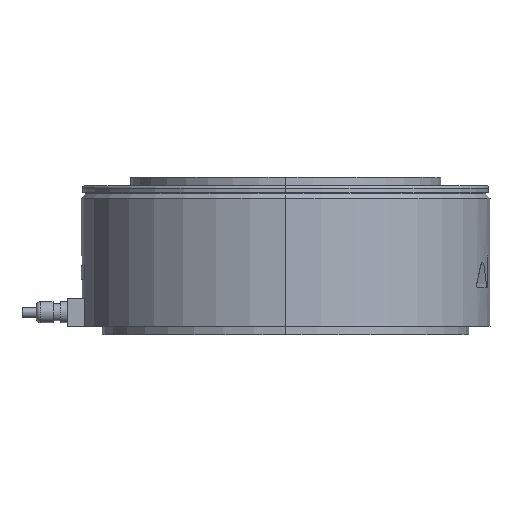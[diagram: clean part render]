
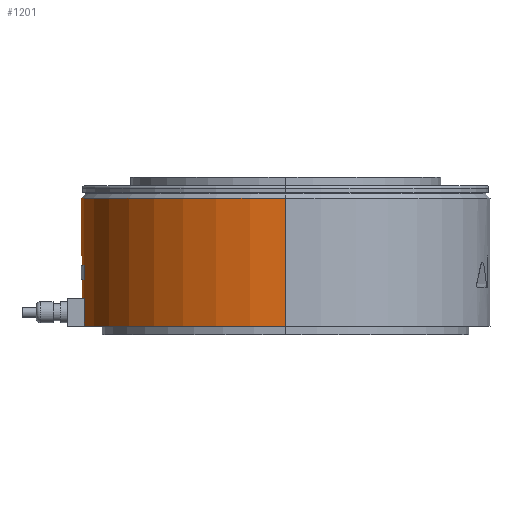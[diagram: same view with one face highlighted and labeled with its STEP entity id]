
A CAD part, left-side view. The second image highlights one B-rep face of the part: STEP entity #1201.
In plain terms, the highlighted cylindrical face has radius 145 mm (diameter 290 mm), a partial arc.
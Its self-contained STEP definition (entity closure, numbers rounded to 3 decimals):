
#20 = ORIENTED_EDGE ( 'NONE', *, *, #6651, .F. ) ;
#171 = CARTESIAN_POINT ( 'NONE',  ( -25., 142.829, 26. ) ) ;
#240 = CARTESIAN_POINT ( 'NONE',  ( 25., 142.829, 49.5 ) ) ;
#864 = ORIENTED_EDGE ( 'NONE', *, *, #6696, .F. ) ;
#1100 = ORIENTED_EDGE ( 'NONE', *, *, #6644, .F. ) ;
#1118 = ORIENTED_EDGE ( 'NONE', *, *, #6650, .F. ) ;
#1122 = ORIENTED_EDGE ( 'NONE', *, *, #6643, .T. ) ;
#1201 = ADVANCED_FACE ( 'NONE', ( #1850, #1858, #1860 ), #1854, .T. ) ;
#1373 = ORIENTED_EDGE ( 'NONE', *, *, #6642, .T. ) ;
#1377 = ORIENTED_EDGE ( 'NONE', *, *, #6665, .T. ) ;
#1378 = ORIENTED_EDGE ( 'NONE', *, *, #6637, .F. ) ;
#1850 = FACE_BOUND ( 'NONE', #3584, .T. ) ;
#1854 = CYLINDRICAL_SURFACE ( 'NONE', #2878, 145. ) ;
#1858 = FACE_BOUND ( 'NONE', #3506, .T. ) ;
#1860 = FACE_OUTER_BOUND ( 'NONE', #3510, .T. ) ;
#2605 = VECTOR ( 'NONE', #5945, 1000. ) ;
#2608 = CIRCLE ( 'NONE', #2720, 145. ) ;
#2610 = LINE ( 'NONE', #5944, #2605 ) ;
#2612 = LINE ( 'NONE', #5938, #2613 ) ;
#2613 = VECTOR ( 'NONE', #5939, 1000. ) ;
#2614 = CIRCLE ( 'NONE', #2723, 145. ) ;
#2615 = LINE ( 'NONE', #4117, #2625 ) ;
#2616 = CIRCLE ( 'NONE', #2728, 145. ) ;
#2621 = LINE ( 'NONE', #4119, #2622 ) ;
#2622 = VECTOR ( 'NONE', #4120, 1000. ) ;
#2623 = LINE ( 'NONE', #4121, #2624 ) ;
#2624 = VECTOR ( 'NONE', #4122, 1000. ) ;
#2625 = VECTOR ( 'NONE', #4124, 1000. ) ;
#2627 = CIRCLE ( 'NONE', #2726, 145. ) ;
#2643 = CIRCLE ( 'NONE', #2739, 145. ) ;
#2690 = CIRCLE ( 'NONE', #2754, 145. ) ;
#2693 = LINE ( 'NONE', #4293, #2694 ) ;
#2694 = VECTOR ( 'NONE', #4295, 1000. ) ;
#2720 = AXIS2_PLACEMENT_3D ( 'NONE', #5928, #5929, #5930 ) ;
#2723 = AXIS2_PLACEMENT_3D ( 'NONE', #5940, #5942, #5943 ) ;
#2726 = AXIS2_PLACEMENT_3D ( 'NONE', #4123, #4129, #4130 ) ;
#2728 = AXIS2_PLACEMENT_3D ( 'NONE', #5937, #4061, #4062 ) ;
#2739 = AXIS2_PLACEMENT_3D ( 'NONE', #4152, #4161, #4162 ) ;
#2754 = AXIS2_PLACEMENT_3D ( 'NONE', #4250, #4273, #4275 ) ;
#2878 = AXIS2_PLACEMENT_3D ( 'NONE', #4984, #5004, #5029 ) ;
#3506 = EDGE_LOOP ( 'NONE', ( #6123, #864, #1118, #1100 ) ) ;
#3510 = EDGE_LOOP ( 'NONE', ( #1377, #6130, #6110, #20 ) ) ;
#3584 = EDGE_LOOP ( 'NONE', ( #1373, #3860, #1378, #1122 ) ) ;
#3626 = VERTEX_POINT ( 'NONE', #171 ) ;
#3695 = VERTEX_POINT ( 'NONE', #240 ) ;
#3734 = VERTEX_POINT ( 'NONE', #6153 ) ;
#3735 = VERTEX_POINT ( 'NONE', #6154 ) ;
#3745 = VERTEX_POINT ( 'NONE', #6164 ) ;
#3860 = ORIENTED_EDGE ( 'NONE', *, *, #6641, .T. ) ;
#4061 = DIRECTION ( 'NONE',  ( 0., 0., -1. ) ) ;
#4062 = DIRECTION ( 'NONE',  ( 1., 0., 0. ) ) ;
#4117 = CARTESIAN_POINT ( 'NONE',  ( 145., 0., 0. ) ) ;
#4119 = CARTESIAN_POINT ( 'NONE',  ( 25., 142.829, 0. ) ) ;
#4120 = DIRECTION ( 'NONE',  ( 0., 0., -1. ) ) ;
#4121 = CARTESIAN_POINT ( 'NONE',  ( -145., 0., 0. ) ) ;
#4122 = DIRECTION ( 'NONE',  ( 0., 0., -1. ) ) ;
#4123 = CARTESIAN_POINT ( 'NONE',  ( 0., 0., 6. ) ) ;
#4124 = DIRECTION ( 'NONE',  ( 0., 0., -1. ) ) ;
#4129 = DIRECTION ( 'NONE',  ( 0., 0., -1. ) ) ;
#4130 = DIRECTION ( 'NONE',  ( -1., 0., 0. ) ) ;
#4152 = CARTESIAN_POINT ( 'NONE',  ( 0., 0., 97. ) ) ;
#4161 = DIRECTION ( 'NONE',  ( 0., 0., -1. ) ) ;
#4162 = DIRECTION ( 'NONE',  ( -1., 0., 0. ) ) ;
#4250 = CARTESIAN_POINT ( 'NONE',  ( 0., 0., 39. ) ) ;
#4273 = DIRECTION ( 'NONE',  ( 0., 0., 1. ) ) ;
#4275 = DIRECTION ( 'NONE',  ( -1., 0., 0. ) ) ;
#4291 = VERTEX_POINT ( 'NONE', #6242 ) ;
#4293 = CARTESIAN_POINT ( 'NONE',  ( -25., 142.829, 0. ) ) ;
#4295 = DIRECTION ( 'NONE',  ( 0., 0., 1. ) ) ;
#4296 = VERTEX_POINT ( 'NONE', #6244 ) ;
#4475 = VERTEX_POINT ( 'NONE', #6358 ) ;
#4477 = VERTEX_POINT ( 'NONE', #6360 ) ;
#4484 = VERTEX_POINT ( 'NONE', #6368 ) ;
#4485 = VERTEX_POINT ( 'NONE', #6367 ) ;
#4487 = VERTEX_POINT ( 'NONE', #6378 ) ;
#4984 = CARTESIAN_POINT ( 'NONE',  ( 0., 0., 0. ) ) ;
#5004 = DIRECTION ( 'NONE',  ( 0., 0., -1. ) ) ;
#5029 = DIRECTION ( 'NONE',  ( -1., 0., 0. ) ) ;
#5928 = CARTESIAN_POINT ( 'NONE',  ( 0., 0., 7. ) ) ;
#5929 = DIRECTION ( 'NONE',  ( 0., 0., 1. ) ) ;
#5930 = DIRECTION ( 'NONE',  ( -1., 0., 0. ) ) ;
#5937 = CARTESIAN_POINT ( 'NONE',  ( 0., 0., 49.5 ) ) ;
#5938 = CARTESIAN_POINT ( 'NONE',  ( -25., 142.829, 0. ) ) ;
#5939 = DIRECTION ( 'NONE',  ( 0., 0., -1. ) ) ;
#5940 = CARTESIAN_POINT ( 'NONE',  ( 0., 0., 26. ) ) ;
#5942 = DIRECTION ( 'NONE',  ( 0., 0., 1. ) ) ;
#5943 = DIRECTION ( 'NONE',  ( -1., 0., 0. ) ) ;
#5944 = CARTESIAN_POINT ( 'NONE',  ( 25., 142.829, 0. ) ) ;
#5945 = DIRECTION ( 'NONE',  ( 0., 0., 1. ) ) ;
#6110 = ORIENTED_EDGE ( 'NONE', *, *, #6654, .F. ) ;
#6123 = ORIENTED_EDGE ( 'NONE', *, *, #6700, .F. ) ;
#6130 = ORIENTED_EDGE ( 'NONE', *, *, #6652, .T. ) ;
#6153 = CARTESIAN_POINT ( 'NONE',  ( 145., 0., 6. ) ) ;
#6154 = CARTESIAN_POINT ( 'NONE',  ( 25., 142.829, 7. ) ) ;
#6164 = CARTESIAN_POINT ( 'NONE',  ( -25., 142.829, 49.5 ) ) ;
#6242 = CARTESIAN_POINT ( 'NONE',  ( -145., 0., 97. ) ) ;
#6244 = CARTESIAN_POINT ( 'NONE',  ( 145., 0., 97. ) ) ;
#6358 = CARTESIAN_POINT ( 'NONE',  ( 25., 142.829, 39. ) ) ;
#6360 = CARTESIAN_POINT ( 'NONE',  ( -145., 0., 6. ) ) ;
#6367 = CARTESIAN_POINT ( 'NONE',  ( 25., 142.829, 26. ) ) ;
#6368 = CARTESIAN_POINT ( 'NONE',  ( -25., 142.829, 39. ) ) ;
#6378 = CARTESIAN_POINT ( 'NONE',  ( -25., 142.829, 7. ) ) ;
#6637 = EDGE_CURVE ( 'NONE', #3735, #4487, #2608, .T. ) ;
#6641 = EDGE_CURVE ( 'NONE', #3626, #4487, #2612, .T. ) ;
#6642 = EDGE_CURVE ( 'NONE', #4485, #3626, #2614, .T. ) ;
#6643 = EDGE_CURVE ( 'NONE', #3735, #4485, #2610, .T. ) ;
#6644 = EDGE_CURVE ( 'NONE', #3745, #3695, #2616, .T. ) ;
#6650 = EDGE_CURVE ( 'NONE', #3695, #4475, #2621, .T. ) ;
#6651 = EDGE_CURVE ( 'NONE', #4291, #4477, #2623, .T. ) ;
#6652 = EDGE_CURVE ( 'NONE', #4296, #3734, #2615, .T. ) ;
#6654 = EDGE_CURVE ( 'NONE', #4477, #3734, #2627, .T. ) ;
#6665 = EDGE_CURVE ( 'NONE', #4291, #4296, #2643, .T. ) ;
#6696 = EDGE_CURVE ( 'NONE', #4475, #4484, #2690, .T. ) ;
#6700 = EDGE_CURVE ( 'NONE', #4484, #3745, #2693, .T. ) ;
